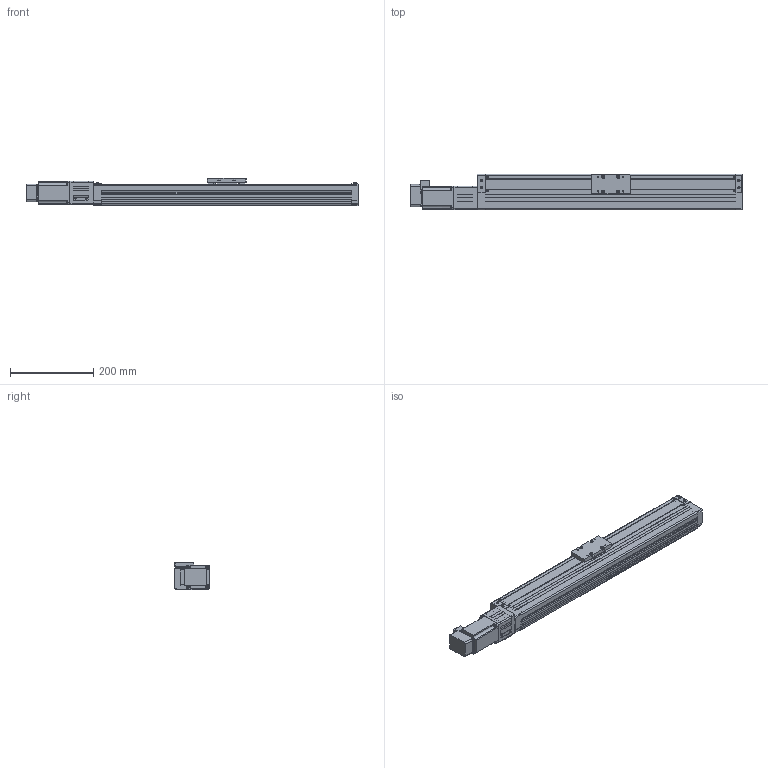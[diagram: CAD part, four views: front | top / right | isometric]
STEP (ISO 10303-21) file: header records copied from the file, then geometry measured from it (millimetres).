
FILE_DESCRIPTION((''),'2;1');
FILE_NAME('D:\製品 (図面)\カタログ用3D\SU部品\SU85×65\ダウンロード用\SU85×65-CM30\SU85×65-500-CM30.stp','2011-07-02T13:35:53',('Tsuchiya'),(''),'Autodesk Inventor 10','Autodesk Inventor 10','');
FILE_SCHEMA(('AUTOMOTIVE_DESIGN { 1 0 10303 214 1 1 1 1 }'));
Length unit declared in the file: millimetre
Products named in the file (4): SU85×65-500-CM30; SU85×65-500-CM301; SU85×65-500-CM302; SU85×65-500-CM303
Assembly tree (3 placements, depth 2):
  SU85×65-500-CM30
    SU85×65-500-CM301
    SU85×65-500-CM302
    SU85×65-500-CM303
Bounding box: 796.5 x 85 x 65 mm (x, y, z)
Volume: 1556255.6 mm3; surface area: 469032.7 mm2
Topology: 9 solids, 9 shells, 970 faces, 2558 edges, 1654 vertices
Faces by surface type: plane 798, cylinder 132, cone 24, torus 12, bspline 4
Full cylindrical faces by diameter (mm): 3.242 x8, 4 x4, 4.134 x12, 4.5 x4, 5.5 x4, 6 x1, 6.35 x1, 7 x8, 8 x1, 11.5 x1, 12 x1, 13 x1, 38.1 x2, 43 x1
Entity records: 29583 total; most frequent: CARTESIAN_POINT 5898, ORIENTED_EDGE 4870, DIRECTION 4664, EDGE_CURVE 2435, VECTOR 1924, LINE 1924, VERTEX_POINT 1620, AXIS2_PLACEMENT_3D 1370
